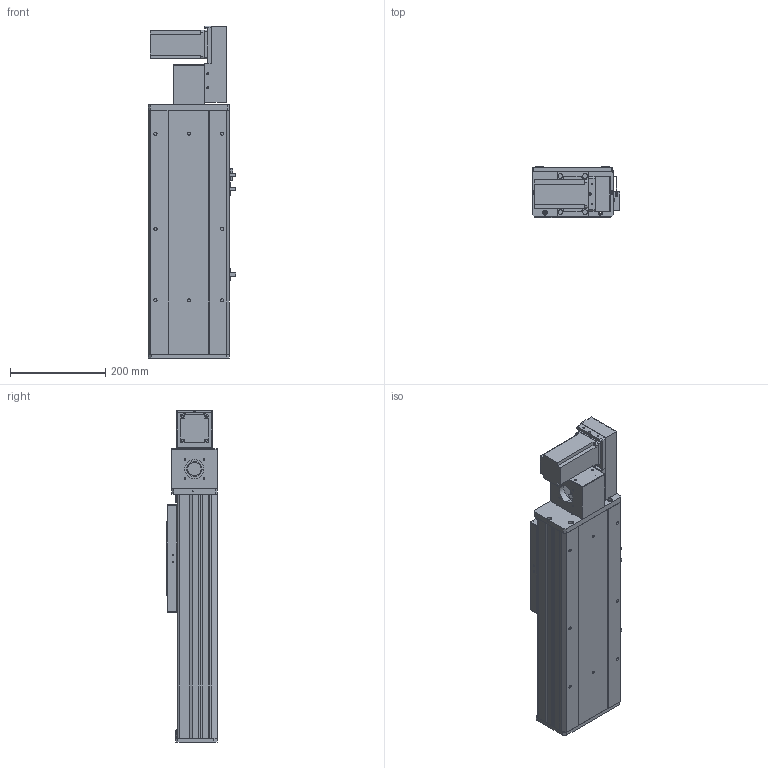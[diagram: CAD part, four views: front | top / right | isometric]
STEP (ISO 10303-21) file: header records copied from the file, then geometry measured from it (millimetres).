
FILE_DESCRIPTION (( 'STEP AP203' ), '1' );
FILE_NAME ('Y170CB-D105-S200-BR-P400W.STEP', '2020-02-19T08:35:14', ( '微软用户' ), ( '微软中国' ), 'SwSTEP 2.0', 'SolidWorks 2017', '' );
FILE_SCHEMA (( 'CONFIG_CONTROL_DESIGN' ));
Length unit declared in the file: millimetre
Products named in the file (17): 70B喘謫眊----; B-源倛裔啣; 17B-耜蚾蟀諉啣----; 0B-萇儂楊擘啣; san松下电机400不带刹车----; Y70俋欶BR----; 70CB-掛极-; --70CB --喘謫眊楊擘啣-; 70CB-耜裔啣-; 70C--詩湍揤踡え-; 70CB--耜裔; 70C-雄赽釱-奻-; 0C--雄赽釱俋欶-170; 70CB-詩湍--; Y100-135俋离換覜ん--; Y170CB-陔俋离換覜結え---; Y170CB-D105-S200-BR-P400W
Assembly tree (20 placements, depth 2):
  Y170CB-D105-S200-BR-P400W
    70B喘謫眊----
    B-源倛裔啣
    17B-耜蚾蟀諉啣----
    0B-萇儂楊擘啣
    san松下电机400不带刹车----
    Y70俋欶BR----
    70CB-掛极-
    --70CB --喘謫眊楊擘啣-
    70CB-耜裔啣-  x2
    70C--詩湍揤踡え-  x2
    70CB--耜裔
    70C-雄赽釱-奻-
    0C--雄赽釱俋欶-170
    70CB-詩湍--
    Y100-135俋离換覜ん--  x3
    Y170CB-陔俋离換覜結え---
Bounding box: 183.5 x 107 x 697 mm (x, y, z)
Volume: 3382562.3 mm3; surface area: 1186744.8 mm2
Topology: 20 solids, 20 shells, 957 faces, 2546 edges, 1688 vertices
Faces by surface type: cylinder 472, plane 461, cone 24
Entity records: 30074 total; most frequent: CARTESIAN_POINT 5446, DIRECTION 4903, ORIENTED_EDGE 4574, EDGE_CURVE 2287, AXIS2_PLACEMENT_3D 1777, VERTEX_POINT 1518, VECTOR 1349, LINE 1349
